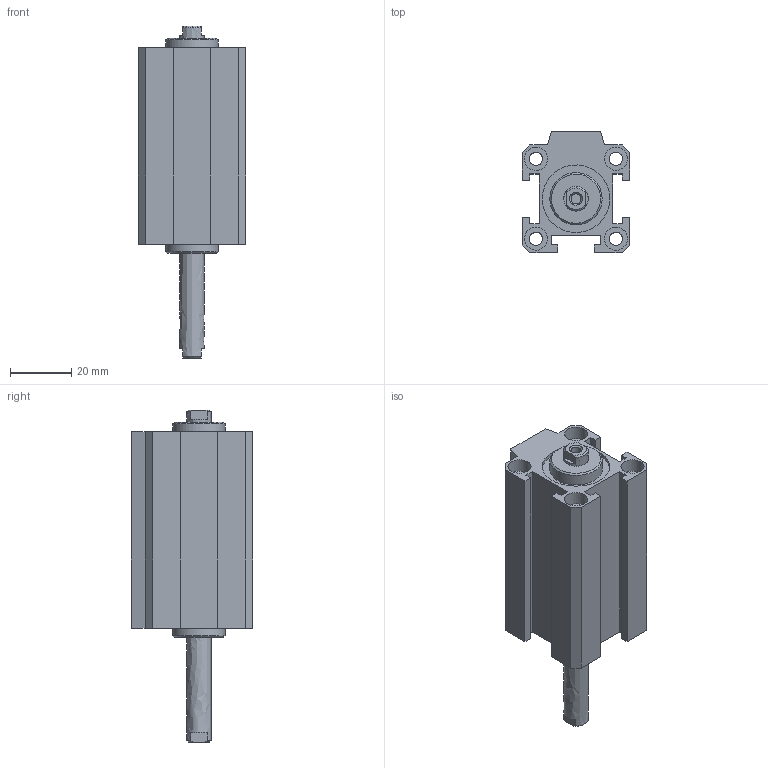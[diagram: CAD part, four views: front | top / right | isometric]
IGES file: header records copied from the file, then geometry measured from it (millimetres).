
Global section: file name: 1514_20_0030; native system: Autodesk Inventor 2014; preprocessor: unknown; author: A. Manieri; date: 20160824.110437; units: millimetre
Bounding box: 35 x 39.5 x 108 mm (x, y, z)
Volume: 55415.3 mm3; surface area: 27722.9 mm2
Topology: 2 solids, 2 shells, 104 faces, 272 edges, 192 vertices
Faces by surface type: bspline 104
